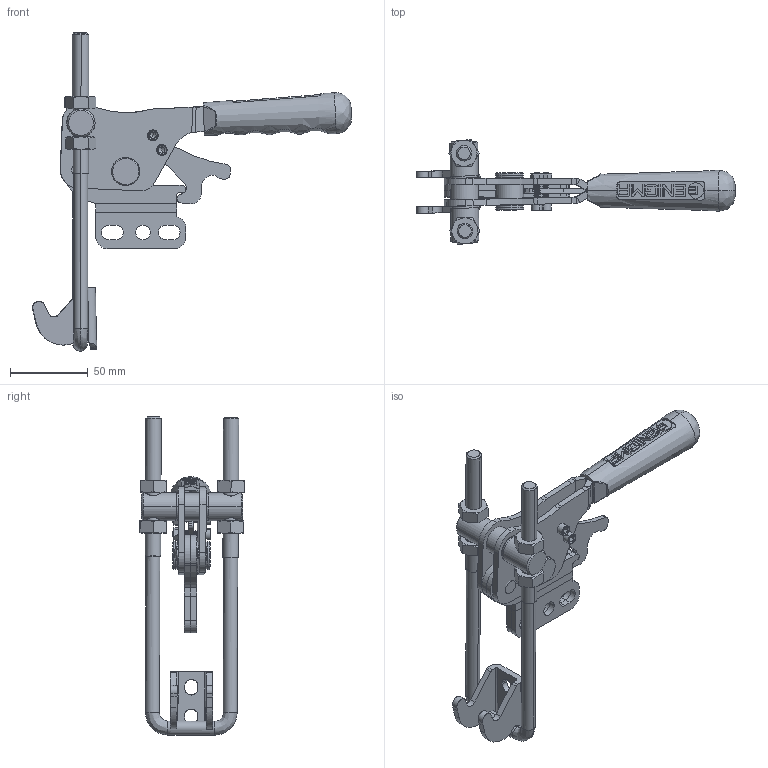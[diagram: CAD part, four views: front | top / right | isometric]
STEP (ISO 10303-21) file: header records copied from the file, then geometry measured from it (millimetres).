
FILE_DESCRIPTION (( 'STEP AP203' ), '1' );
FILE_NAME ('13210_D_K.STEP', '2022-12-05T06:06:46', ( '' ), ( '' ), 'SwSTEP 2.0', 'SolidWorks 2023', '' );
FILE_SCHEMA (( 'CONFIG_CONTROL_DESIGN' ));
Length unit declared in the file: millimetre
Products named in the file (15): M10_S(SOMUN)_Varsay_X2_0131_X0_lan; 6x21_PER_X2_00c70130_X0_N_Varsay_X2_0131_X0_lan; 13110_H.KOLU_2022_Varsay_X2_0131_X0_lan; M8-M10_REV1_DefaultSM-FLAT-PATTERN; 2022_13108_13110_Y_G_X2_00d6_X0_VDE; S_M4x20 Imbus Civata; M10x90_U_KANCA_Varsay_X2_0131_X0_lan; C95_Yeni_Tutamak_Varsay_X2_0131_X0_lan; 13108_K_X2_0130_X0_L_X2_0130_X0_T_MEKAN_X2_0130_X0_ZMASI; 13110_OTOMAT_Varsay_X2_0131_X0_lan; Mirror13110_H.KOLU_2022_Varsay_X2_0131_X0_lan; M4_S; 13210_D_K; Mirror2022_13108_13110_Y_G_X2_00d6_X0_VDE; 13110_OTOMAT_2_Varsay_X2_0131_X0_lan
Assembly tree (19 placements, depth 2):
  13210_D_K
    2022_13108_13110_Y_G_X2_00d6_X0_VDE
    13110_H.KOLU_2022_Varsay_X2_0131_X0_lan
    Mirror2022_13108_13110_Y_G_X2_00d6_X0_VDE
    Mirror13110_H.KOLU_2022_Varsay_X2_0131_X0_lan
    C95_Yeni_Tutamak_Varsay_X2_0131_X0_lan
    6x21_PER_X2_00c70130_X0_N_Varsay_X2_0131_X0_lan
    S_M4x20 Imbus Civata  x2
    M4_S  x2
    13108_K_X2_0130_X0_L_X2_0130_X0_T_MEKAN_X2_0130_X0_ZMASI
    13110_OTOMAT_Varsay_X2_0131_X0_lan
    13110_OTOMAT_2_Varsay_X2_0131_X0_lan
    M10x90_U_KANCA_Varsay_X2_0131_X0_lan
    M10_S(SOMUN)_Varsay_X2_0131_X0_lan  x4
    M8-M10_REV1_DefaultSM-FLAT-PATTERN
Bounding box: 205.21 x 66.94 x 204.65 mm (x, y, z)
Volume: 157931.1 mm3; surface area: 82273 mm2
Topology: 17 solids, 25 shells, 854 faces, 2180 edges, 1387 vertices
Faces by surface type: plane 354, cylinder 322, cone 106, bspline 72
Entity records: 47803 total; most frequent: CARTESIAN_POINT 30213, ORIENTED_EDGE 3430, DIRECTION 3096, EDGE_CURVE 1719, VERTEX_POINT 1101, AXIS2_PLACEMENT_3D 1081, VECTOR 934, LINE 934
